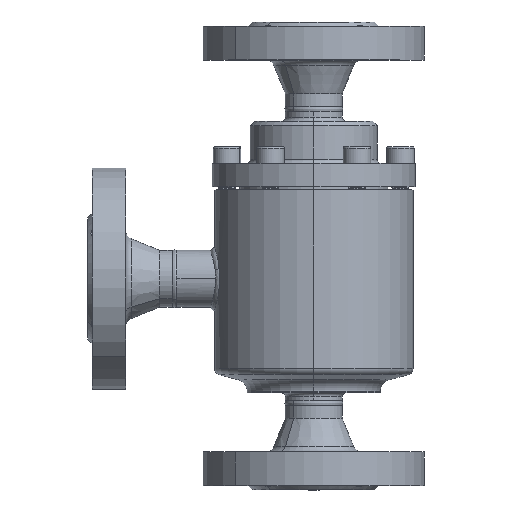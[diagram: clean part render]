
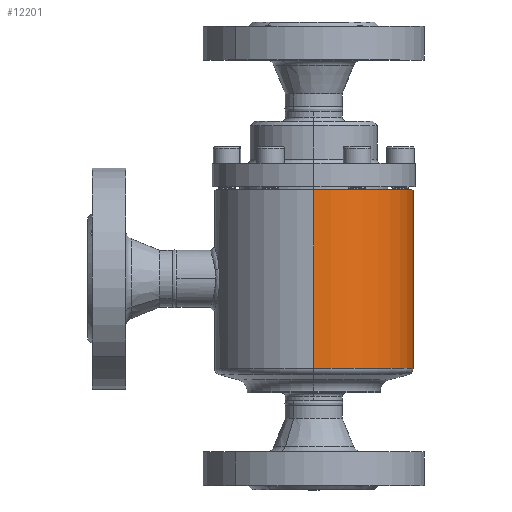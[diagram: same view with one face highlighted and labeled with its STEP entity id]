
A CAD part, top view. The second image highlights one B-rep face of the part: STEP entity #12201.
In plain terms, the highlighted cylindrical face has radius 47 mm (diameter 94 mm), a partial arc.
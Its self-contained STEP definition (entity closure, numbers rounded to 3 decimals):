
#16548 = VERTEX_POINT ( 'NONE', #7955 ) ;
#16751 = CARTESIAN_POINT ( 'NONE',  ( 0., 80.527, -47. ) ) ;
#17015 = LINE ( 'NONE', #17016, #17017 ) ;
#17016 = CARTESIAN_POINT ( 'NONE',  ( 0., 76.795, -47. ) ) ;
#17017 = VECTOR ( 'NONE', #17018, 1000. ) ;
#17018 = DIRECTION ( 'NONE',  ( 0., 1., 0. ) ) ;
#946 = CARTESIAN_POINT ( 'NONE',  ( 0., -4.017, 47. ) ) ;
#1248 = CIRCLE ( 'NONE', #1249, 47. ) ;
#1249 = AXIS2_PLACEMENT_3D ( 'NONE', #1250, #1251, #1252 ) ;
#1250 = CARTESIAN_POINT ( 'NONE',  ( 0., -4.017, 0. ) ) ;
#1251 = DIRECTION ( 'NONE',  ( 0., 1., 0. ) ) ;
#1252 = DIRECTION ( 'NONE',  ( 0., 0., 1. ) ) ;
#4168 = FACE_OUTER_BOUND ( 'NONE', #11962, .T. ) ;
#4169 = CYLINDRICAL_SURFACE ( 'NONE', #4170, 47. ) ;
#4170 = AXIS2_PLACEMENT_3D ( 'NONE', #4171, #4172, #4173 ) ;
#4171 = CARTESIAN_POINT ( 'NONE',  ( 0., 76.795, 0. ) ) ;
#4172 = DIRECTION ( 'NONE',  ( 0., 1., 0. ) ) ;
#4173 = DIRECTION ( 'NONE',  ( 0., 0., 1. ) ) ;
#7955 = CARTESIAN_POINT ( 'NONE',  ( 0., -4.017, -47. ) ) ;
#8277 = EDGE_CURVE ( 'NONE', #15260, #9184, #9532, .T. ) ;
#8661 = ORIENTED_EDGE ( 'NONE', *, *, #8277, .F. ) ;
#9184 = VERTEX_POINT ( 'NONE', #11259 ) ;
#9412 = EDGE_CURVE ( 'NONE', #9184, #10301, #11484, .T. ) ;
#9532 = LINE ( 'NONE', #9533, #9534 ) ;
#9533 = CARTESIAN_POINT ( 'NONE',  ( 0., 76.795, 47. ) ) ;
#9534 = VECTOR ( 'NONE', #9535, 1000. ) ;
#9535 = DIRECTION ( 'NONE',  ( 0., 1., 0. ) ) ;
#9784 = ORIENTED_EDGE ( 'NONE', *, *, #9412, .F. ) ;
#10301 = VERTEX_POINT ( 'NONE', #16751 ) ;
#10532 = EDGE_CURVE ( 'NONE', #16548, #10301, #17015, .T. ) ;
#10903 = ORIENTED_EDGE ( 'NONE', *, *, #10532, .T. ) ;
#11259 = CARTESIAN_POINT ( 'NONE',  ( 0., 80.527, 47. ) ) ;
#11435 = ORIENTED_EDGE ( 'NONE', *, *, #15481, .T. ) ;
#11484 = CIRCLE ( 'NONE', #11485, 47. ) ;
#11485 = AXIS2_PLACEMENT_3D ( 'NONE', #11486, #11487, #11490 ) ;
#11486 = CARTESIAN_POINT ( 'NONE',  ( 0., 80.527, 0. ) ) ;
#11487 = DIRECTION ( 'NONE',  ( 0., 1., 0. ) ) ;
#11490 = DIRECTION ( 'NONE',  ( 0., 0., 1. ) ) ;
#11962 = EDGE_LOOP ( 'NONE', ( #11435, #10903, #9784, #8661 ) ) ;
#12201 = ADVANCED_FACE ( 'NONE', ( #4168 ), #4169, .T. ) ;
#15260 = VERTEX_POINT ( 'NONE', #946 ) ;
#15481 = EDGE_CURVE ( 'NONE', #15260, #16548, #1248, .T. ) ;
